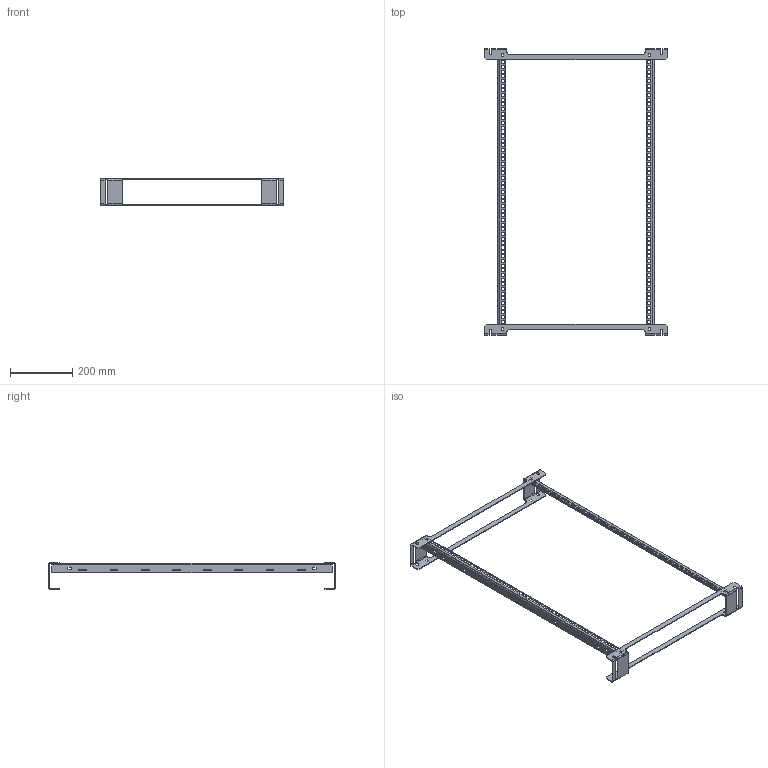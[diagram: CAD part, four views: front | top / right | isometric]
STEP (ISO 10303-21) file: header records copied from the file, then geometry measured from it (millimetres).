
FILE_DESCRIPTION (( 'STEP AP203' ), '1' );
FILE_NAME ('ptra36s.STEP', '2013-07-03T14:07:09', ( 'User' ), ( 'Pentair Inc' ), 'SwSTEP 2.0', 'SolidWorks 2010', '' );
FILE_SCHEMA (( 'CONFIG_CONTROL_DESIGN' ));
Length unit declared in the file: inch
Products named in the file (3): ptra36s; 89072124_87931339; 89060606_89060606
Assembly tree (4 placements, depth 2):
  ptra36s
    89060606_89060606  x2
    89072124_87931339  x2
Bounding box: 585 x 918.51 x 85 mm (x, y, z)
Volume: 348855.2 mm3; surface area: 321802.8 mm2
Topology: 4 solids, 4 shells, 768 faces, 2204 edges, 1432 vertices
Faces by surface type: plane 680, cylinder 88
Entity records: 12985 total; most frequent: CARTESIAN_POINT 2209, ORIENTED_EDGE 2204, DIRECTION 1972, EDGE_CURVE 1102, LINE 1014, VECTOR 1014, VERTEX_POINT 716, EDGE_LOOP 530
